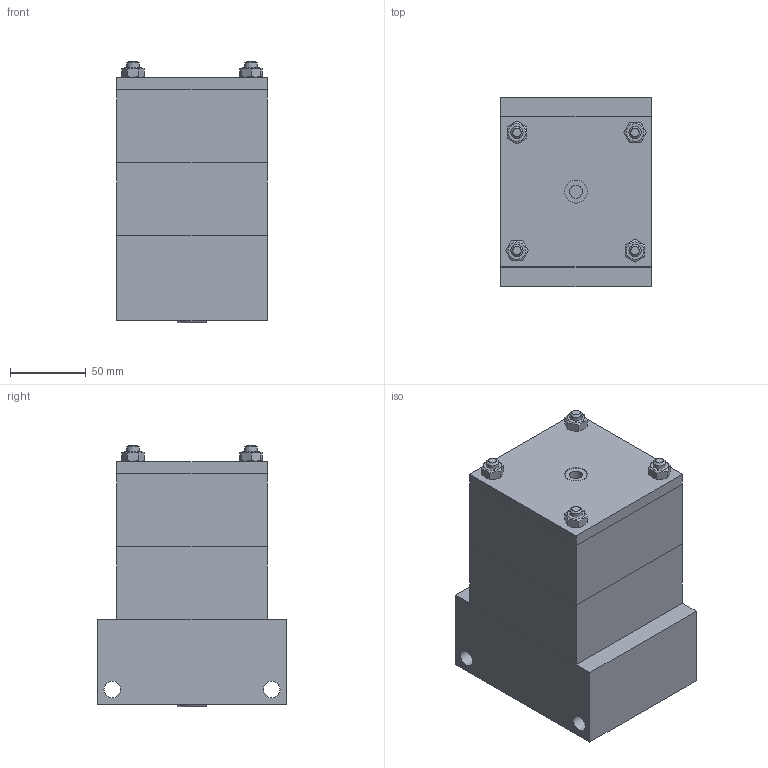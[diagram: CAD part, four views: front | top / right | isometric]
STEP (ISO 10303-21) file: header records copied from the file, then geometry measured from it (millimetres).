
FILE_DESCRIPTION((''),'2;1');
FILE_NAME('C:\VaultWork\Zeichnungen\Maßblätter\Multispannzylinder\M90\M90-30\MZ01564-3-0 Maßblatt Multizylinder M90-3-30.stp','2010-12-06T16:07:04',('Test'),(''),'Autodesk Inventor 2008','Autodesk Inventor 2008','');
FILE_SCHEMA(('AUTOMOTIVE_DESIGN { 1 0 10303 214 1 1 1 1 }'));
Length unit declared in the file: millimetre
Products named in the file (1): MZ01564-3-0 Maßblatt Multizylinder M90-3-30
Bounding box: 99 x 125 x 172.5 mm (x, y, z)
Volume: 1692266.8 mm3; surface area: 102942.7 mm2
Topology: 1 solids, 5 shells, 120 faces, 259 edges, 166 vertices
Faces by surface type: plane 67, bspline 24, cone 20, cylinder 8, torus 1
Full cylindrical faces by diameter (mm): 8 x8
Entity records: 3164 total; most frequent: CARTESIAN_POINT 923, DIRECTION 400, ORIENTED_EDGE 368, EDGE_LOOP 192, EDGE_CURVE 184, AXIS2_PLACEMENT_3D 167, VERTEX_POINT 142, STYLED_ITEM 121
